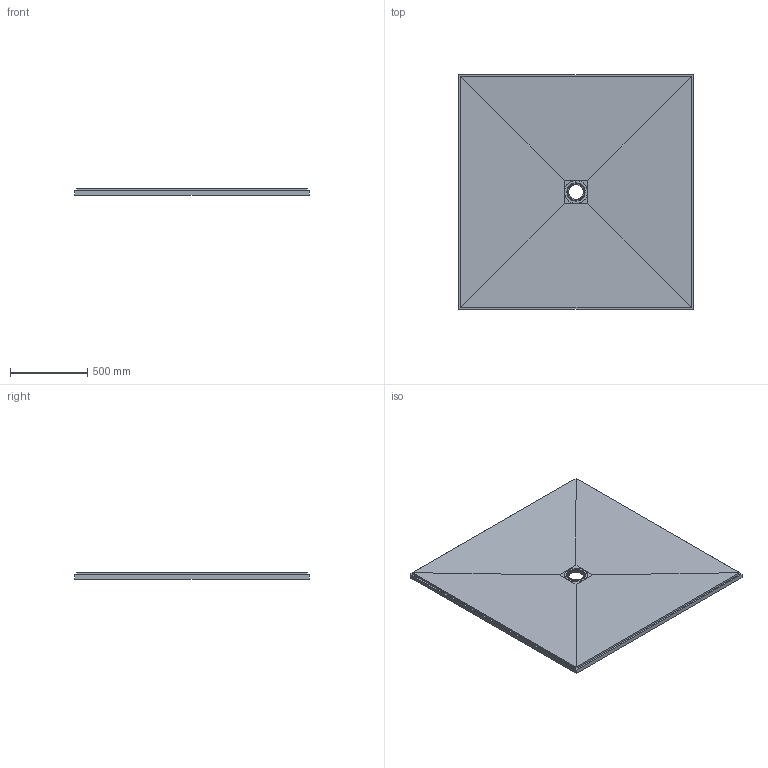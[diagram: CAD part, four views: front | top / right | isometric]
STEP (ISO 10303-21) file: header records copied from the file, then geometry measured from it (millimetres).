
FILE_DESCRIPTION(/* description */ ('Fertigteil'),/* implementation_level */ '2;1');
FILE_NAME(/* name */ 'C:\Users\fuser-vault-job\AppData\Local\Temp\MuM_s1ngzzfg.wez\D-000000877.iam_.step',/* time_stamp */ '2022-07-14T08:43:25+02:00',/* author */ ('ds'),/* organization */ (''),/* preprocessor_version */ 'ST-DEVELOPER v18.1',/* originating_system */ 'Autodesk Inventor 2020',/* authorisation */ '');
FILE_SCHEMA (('AUTOMOTIVE_DESIGN { 1 0 10303 214 3 1 1 }'));
Products named in the file (3): 073740056; 073740056_1; DD0000003
Assembly tree (2 placements, depth 2):
  073740056
    073740056_1
    DD0000003
Bounding box: 1524 x 1524 x 40 mm (x, y, z)
Volume: 77116998.7 mm3; surface area: 4913541.7 mm2
Topology: 2 solids, 2 shells, 743 faces, 2189 edges, 1474 vertices
Faces by surface type: bspline 372, torus 115, cone 78, cylinder 76, plane 68, sphere 34
Full cylindrical faces by diameter (mm): 6 x3, 151 x1
Entity records: 63140 total; most frequent: CARTESIAN_POINT 44892, ORIENTED_EDGE 4322, DIRECTION 3297, EDGE_CURVE 2161, VERTEX_POINT 1456, AXIS2_PLACEMENT_3D 1338, CIRCLE 812, EDGE_LOOP 803
